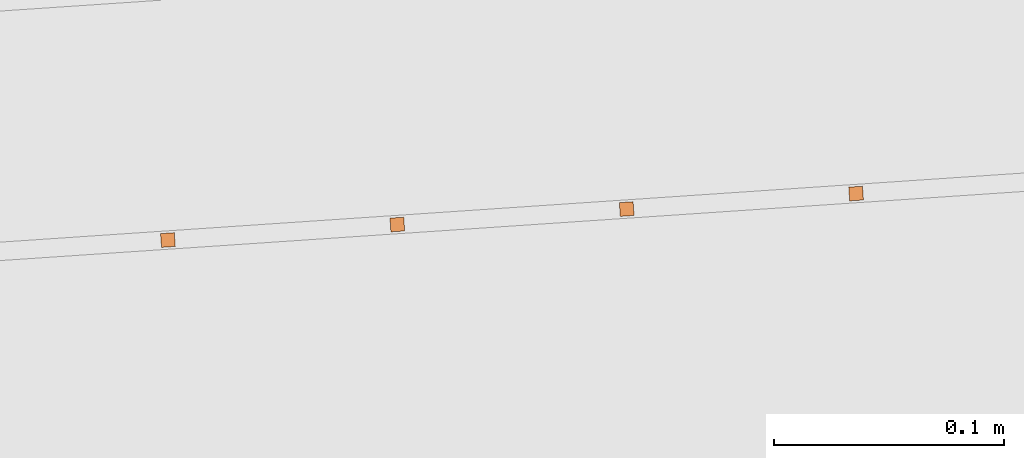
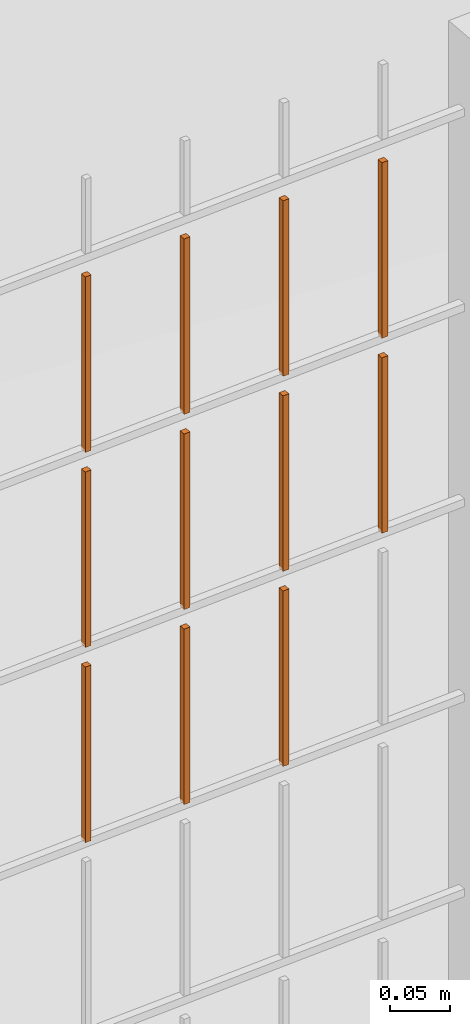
# One storey, part 360 of 1809: 11 proxies, 1 element without a shape of its own.
"""IFC2X3 building model written with IfcOpenShell, lengths in millimetres."""

from ifc_helpers import new_model, entity, si_unit, converted_unit, derived_unit, money_unit, direction, frame, origin_with_axes, place, context, subcontext, project, spatial, faceted_brep, source, transform, mapped, material, type_object, element, aggregate, save


model = new_model("IFC2X3")

# Units and contexts
model_context = context("Model", 3, precision=0.01, world=origin_with_axes(), true_north=direction((0.0, 1.0)))
body_context = subcontext(model_context, "Body", "Model", "MODEL_VIEW")
ifc_project = project(units=[si_unit("LENGTHUNIT", "METRE", prefix="MILLI"), si_unit("AREAUNIT", "SQUARE_METRE"), si_unit("VOLUMEUNIT", "CUBIC_METRE"), converted_unit("PLANEANGLEUNIT", "DEGREE", entity("IfcPlaneAngleMeasure", 0.0174532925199), si_unit("PLANEANGLEUNIT", "RADIAN"), dimensions=[0, 0, 0, 0, 0, 0, 0]), si_unit("SOLIDANGLEUNIT", "STERADIAN"), money_unit("EUR"), converted_unit("TIMEUNIT", "Year", entity("IfcTimeMeasure", 31556926.0), si_unit("TIMEUNIT", "SECOND"), dimensions=[0, 0, 1, 0, 0, 0, 0]), si_unit("MASSUNIT", "GRAM", prefix="KILO"), si_unit("THERMODYNAMICTEMPERATUREUNIT", "DEGREE_CELSIUS"), si_unit("LUMINOUSINTENSITYUNIT", "LUMEN"), si_unit("ENERGYUNIT", "JOULE", prefix="MEGA"), derived_unit("THERMALCONDUCTANCEUNIT", [(si_unit("POWERUNIT", "WATT"), 1), (si_unit("LENGTHUNIT", "METRE"), -1), (si_unit("THERMODYNAMICTEMPERATUREUNIT", "KELVIN"), -1)]), derived_unit("SPECIFICHEATCAPACITYUNIT", [(si_unit("ENERGYUNIT", "JOULE"), 1), (si_unit("MASSUNIT", "GRAM", prefix="KILO"), -1), (si_unit("THERMODYNAMICTEMPERATUREUNIT", "KELVIN"), -1)]), derived_unit("MASSDENSITYUNIT", [(si_unit("MASSUNIT", "GRAM", prefix="KILO"), 1), (si_unit("VOLUMEUNIT", "CUBIC_METRE"), -1)])], contexts=[model_context])

# Site, building, storey
site_placement = place(None, origin_with_axes())
site = spatial("IfcSite", under=ifc_project, at=site_placement, Name="Politse- ja Piirivalveameti ning Päästeameti ühishoone", CompositionType="ELEMENT")
building_placement = place(site_placement, origin_with_axes())
building = spatial("IfcBuilding", under=site, at=building_placement, Name="Politse- ja Piirivalveameti ning Päästeameti ühishoone", CompositionType="ELEMENT")
storey_placement = place(building_placement, origin_with_axes())
storey = spatial("IfcBuildingStorey", under=building, at=storey_placement, Name="Esimene korrus", CompositionType="ELEMENT", Elevation=0.0)

# Proxies
building_element_proxy_type_1 = type_object("IfcBuildingElementProxyType", Name="Railing Type", PredefinedType="NOTDEFINED")
proxy_1_placement = place(storey_placement, frame((89252.001212, -29183.4766571, 203.661247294), z_axis=(0.0, 0.0, 1.0), x_axis=(1.0, 0.0, 0.0)))
proxy_1 = element("IfcBuildingElementProxy", 1, at=proxy_1_placement, inside=storey, type_object=building_element_proxy_type_1, Name="PIIRDEAED")
ifc_material = material(Name="ET-03_Raud")
building_element_proxy_type_2 = type_object("IfcBuildingElementProxyType", Name="IfcBuildingElementProxy", PredefinedType="NOTDEFINED")
shared_shape_1 = source(origin_with_axes(), body_context, "Body", "Brep", [
    faceted_brep([(3.0, 3.0, -0.000752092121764), (-3.0, 3.0, -0.000752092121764), (-3.0, 3.0, 179.99926046), (3.0, 3.0, 179.99926046), (3.0, -3.0, 0.000752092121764), (-3.0, -3.0, 0.000752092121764), (-3.0, -3.0, 180.000764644), (3.0, -3.0, 180.000764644)], [[[0, 1, 2, 3]], [[0, 4, 5, 1]], [[1, 5, 6, 2]], [[3, 2, 6, 7]], [[4, 0, 3, 7]], [[5, 4, 7, 6]]]),
])
proxy_2_placement = place(proxy_1_placement, frame((-24870.017898, -18977.6506146, 1820.9853303), z_axis=(0.0, 0.0, 1.0), x_axis=(1.0, 0.0, 0.0)))
proxy_2 = element("IfcBuildingElementProxy", 2, at=proxy_2_placement, type_object=building_element_proxy_type_2, material=ifc_material, Name="BALUSTER - 001", context=body_context, shape_type="MappedRepresentation", body=[
    mapped(shared_shape_1, transform((0.0, 0.0, 0.0), x_axis=(-0.0673926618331, 0.997726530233, 0.0), y_axis=(-0.997726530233, -0.0673926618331, 0.0), z_axis=(0.0, 0.0, 1.0))),
])
shared_shape_2 = source(origin_with_axes(), body_context, "Body", "Brep", [
    faceted_brep([(3.0, 3.0, -0.000752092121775), (-3.0, 3.0, -0.000752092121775), (-3.0, 3.0, 179.99926046), (3.0, 3.0, 179.99926046), (3.0, -3.0, 0.000752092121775), (-3.0, -3.0, 0.000752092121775), (-3.0, -3.0, 180.000764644), (3.0, -3.0, 180.000764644)], [[[0, 1, 2, 3]], [[0, 4, 5, 1]], [[1, 5, 6, 2]], [[3, 2, 6, 7]], [[4, 0, 3, 7]], [[5, 4, 7, 6]]]),
])
proxy_3_placement = place(proxy_1_placement, frame((-24969.790551, -18984.3898807, 1820.96026056), z_axis=(0.0, 0.0, 1.0), x_axis=(1.0, 0.0, 0.0)))
proxy_3 = element("IfcBuildingElementProxy", 3, at=proxy_3_placement, type_object=building_element_proxy_type_2, material=ifc_material, Name="BALUSTER - 001", context=body_context, shape_type="MappedRepresentation", body=[
    mapped(shared_shape_2, transform((0.0, 0.0, 0.0), x_axis=(-0.0673926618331, 0.997726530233, 0.0), y_axis=(-0.997726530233, -0.0673926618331, 0.0), z_axis=(0.0, 0.0, 1.0))),
])
shared_shape_3 = source(origin_with_axes(), body_context, "Body", "Brep", [
    faceted_brep([(3.0, 3.0, -0.000752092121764), (-3.0, 3.0, -0.000752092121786), (-3.0, 3.0, 179.99926046), (3.0, 3.0, 179.99926046), (3.0, -3.0, 0.000752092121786), (-3.0, -3.0, 0.000752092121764), (-3.0, -3.0, 180.000764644), (3.0, -3.0, 180.000764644)], [[[0, 1, 2, 3]], [[0, 4, 5, 1]], [[1, 5, 6, 2]], [[3, 2, 6, 7]], [[4, 0, 3, 7]], [[5, 4, 7, 6]]]),
])
proxy_4_placement = place(proxy_1_placement, frame((-25169.3358571, -18997.8684131, 1820.91012108), z_axis=(0.0, 0.0, 1.0), x_axis=(1.0, 0.0, 0.0)))
proxy_4 = element("IfcBuildingElementProxy", 4, at=proxy_4_placement, type_object=building_element_proxy_type_2, material=ifc_material, Name="BALUSTER - 001", context=body_context, shape_type="MappedRepresentation", body=[
    mapped(shared_shape_3, transform((0.0, 0.0, 0.0), x_axis=(-0.0673926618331, 0.997726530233, 0.0), y_axis=(-0.997726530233, -0.0673926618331, 0.0), z_axis=(0.0, 0.0, 1.0))),
])
shared_shape_4 = source(origin_with_axes(), body_context, "Body", "Brep", [
    faceted_brep([(3.0, 3.0, -0.000752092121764), (-3.0, 3.0, -0.000752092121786), (-3.0, 3.0, 179.99926046), (3.0, 3.0, 179.99926046), (3.0, -3.0, 0.000752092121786), (-3.0, -3.0, 0.000752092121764), (-3.0, -3.0, 180.000764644), (3.0, -3.0, 180.000764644)], [[[0, 1, 2, 3]], [[0, 4, 5, 1]], [[1, 5, 6, 2]], [[3, 2, 6, 7]], [[4, 0, 3, 7]], [[5, 4, 7, 6]]]),
])
proxy_5_placement = place(proxy_1_placement, frame((-25169.3358571, -18997.8684131, 1620.91012108), z_axis=(0.0, 0.0, 1.0), x_axis=(1.0, 0.0, 0.0)))
proxy_5 = element("IfcBuildingElementProxy", 5, at=proxy_5_placement, type_object=building_element_proxy_type_2, material=ifc_material, Name="BALUSTER - 001", context=body_context, shape_type="MappedRepresentation", body=[
    mapped(shared_shape_4, transform((0.0, 0.0, 0.0), x_axis=(-0.0673926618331, 0.997726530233, 0.0), y_axis=(-0.997726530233, -0.0673926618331, 0.0), z_axis=(0.0, 0.0, 1.0))),
])
shared_shape_5 = source(origin_with_axes(), body_context, "Body", "Brep", [
    faceted_brep([(3.0, 3.0, -0.000752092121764), (-3.0, 3.0, -0.000752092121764), (-3.0, 3.0, 179.99926046), (3.0, 3.0, 179.99926046), (3.0, -3.0, 0.000752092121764), (-3.0, -3.0, 0.000752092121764), (-3.0, -3.0, 180.000764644), (3.0, -3.0, 180.000764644)], [[[0, 1, 2, 3]], [[0, 4, 5, 1]], [[1, 5, 6, 2]], [[3, 2, 6, 7]], [[4, 0, 3, 7]], [[5, 4, 7, 6]]]),
])
proxy_6_placement = place(proxy_1_placement, frame((-25069.563204, -18991.1291469, 1820.93519082), z_axis=(0.0, 0.0, 1.0), x_axis=(1.0, 0.0, 0.0)))
proxy_6 = element("IfcBuildingElementProxy", 6, at=proxy_6_placement, type_object=building_element_proxy_type_2, material=ifc_material, Name="BALUSTER - 001", context=body_context, shape_type="MappedRepresentation", body=[
    mapped(shared_shape_5, transform((0.0, 0.0, 0.0), x_axis=(-0.0673926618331, 0.997726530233, 0.0), y_axis=(-0.997726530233, -0.0673926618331, 0.0), z_axis=(0.0, 0.0, 1.0))),
])
shared_shape_6 = source(origin_with_axes(), body_context, "Body", "Brep", [
    faceted_brep([(3.0, 3.0, -0.000752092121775), (-3.0, 3.0, -0.000752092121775), (-3.0, 3.0, 179.99926046), (3.0, 3.0, 179.99926046), (3.0, -3.0, 0.000752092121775), (-3.0, -3.0, 0.000752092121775), (-3.0, -3.0, 180.000764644), (3.0, -3.0, 180.000764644)], [[[0, 1, 2, 3]], [[0, 4, 5, 1]], [[1, 5, 6, 2]], [[3, 2, 6, 7]], [[4, 0, 3, 7]], [[5, 4, 7, 6]]]),
])
proxy_7_placement = place(proxy_1_placement, frame((-24969.790551, -18984.3898807, 1420.96026056), z_axis=(0.0, 0.0, 1.0), x_axis=(1.0, 0.0, 0.0)))
proxy_7 = element("IfcBuildingElementProxy", 7, at=proxy_7_placement, type_object=building_element_proxy_type_2, material=ifc_material, Name="BALUSTER - 001", context=body_context, shape_type="MappedRepresentation", body=[
    mapped(shared_shape_6, transform((0.0, 0.0, 0.0), x_axis=(-0.0673926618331, 0.997726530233, 0.0), y_axis=(-0.997726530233, -0.0673926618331, 0.0), z_axis=(0.0, 0.0, 1.0))),
])
proxy_8_placement = place(proxy_1_placement, frame((-24969.790551, -18984.3898807, 1620.96026056), z_axis=(0.0, 0.0, 1.0), x_axis=(1.0, 0.0, 0.0)))
proxy_8 = element("IfcBuildingElementProxy", 8, at=proxy_8_placement, type_object=building_element_proxy_type_2, material=ifc_material, Name="BALUSTER - 001", context=body_context, shape_type="MappedRepresentation", body=[
    mapped(shared_shape_6, transform((0.0, 0.0, 0.0), x_axis=(-0.0673926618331, 0.997726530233, 0.0), y_axis=(-0.997726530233, -0.0673926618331, 0.0), z_axis=(0.0, 0.0, 1.0))),
])
shared_shape_7 = source(origin_with_axes(), body_context, "Body", "Brep", [
    faceted_brep([(3.0, 3.0, -0.000752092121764), (-3.0, 3.0, -0.000752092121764), (-3.0, 3.0, 179.99926046), (3.0, 3.0, 179.99926046), (3.0, -3.0, 0.000752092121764), (-3.0, -3.0, 0.000752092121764), (-3.0, -3.0, 180.000764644), (3.0, -3.0, 180.000764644)], [[[0, 1, 2, 3]], [[0, 4, 5, 1]], [[1, 5, 6, 2]], [[3, 2, 6, 7]], [[4, 0, 3, 7]], [[5, 4, 7, 6]]]),
])
proxy_9_placement = place(proxy_1_placement, frame((-25069.563204, -18991.1291469, 1420.93519082), z_axis=(0.0, 0.0, 1.0), x_axis=(1.0, 0.0, 0.0)))
proxy_9 = element("IfcBuildingElementProxy", 9, at=proxy_9_placement, type_object=building_element_proxy_type_2, material=ifc_material, Name="BALUSTER - 001", context=body_context, shape_type="MappedRepresentation", body=[
    mapped(shared_shape_7, transform((0.0, 0.0, 0.0), x_axis=(-0.0673926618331, 0.997726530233, 0.0), y_axis=(-0.997726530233, -0.0673926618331, 0.0), z_axis=(0.0, 0.0, 1.0))),
])
proxy_10_placement = place(proxy_1_placement, frame((-25069.563204, -18991.1291469, 1620.93519082), z_axis=(0.0, 0.0, 1.0), x_axis=(1.0, 0.0, 0.0)))
proxy_10 = element("IfcBuildingElementProxy", 10, at=proxy_10_placement, type_object=building_element_proxy_type_2, material=ifc_material, Name="BALUSTER - 001", context=body_context, shape_type="MappedRepresentation", body=[
    mapped(shared_shape_7, transform((0.0, 0.0, 0.0), x_axis=(-0.0673926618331, 0.997726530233, 0.0), y_axis=(-0.997726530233, -0.0673926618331, 0.0), z_axis=(0.0, 0.0, 1.0))),
])
shared_shape_8 = source(origin_with_axes(), body_context, "Body", "Brep", [
    faceted_brep([(3.0, 3.0, -0.000752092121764), (-3.0, 3.0, -0.000752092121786), (-3.0, 3.0, 179.99926046), (3.0, 3.0, 179.99926046), (3.0, -3.0, 0.000752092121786), (-3.0, -3.0, 0.000752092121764), (-3.0, -3.0, 180.000764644), (3.0, -3.0, 180.000764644)], [[[0, 1, 2, 3]], [[0, 4, 5, 1]], [[1, 5, 6, 2]], [[3, 2, 6, 7]], [[4, 0, 3, 7]], [[5, 4, 7, 6]]]),
])
proxy_11_placement = place(proxy_1_placement, frame((-25169.3358571, -18997.8684131, 1420.91012108), z_axis=(0.0, 0.0, 1.0), x_axis=(1.0, 0.0, 0.0)))
proxy_11 = element("IfcBuildingElementProxy", 11, at=proxy_11_placement, type_object=building_element_proxy_type_2, material=ifc_material, Name="BALUSTER - 001", context=body_context, shape_type="MappedRepresentation", body=[
    mapped(shared_shape_8, transform((0.0, 0.0, 0.0), x_axis=(-0.0673926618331, 0.997726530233, 0.0), y_axis=(-0.997726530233, -0.0673926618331, 0.0), z_axis=(0.0, 0.0, 1.0))),
])
shared_shape_9 = source(origin_with_axes(), body_context, "Body", "Brep", [
    faceted_brep([(3.0, 3.0, -0.000752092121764), (-3.0, 3.0, -0.000752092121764), (-3.0, 3.0, 179.99926046), (3.0, 3.0, 179.99926046), (3.0, -3.0, 0.000752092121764), (-3.0, -3.0, 0.000752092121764), (-3.0, -3.0, 180.000764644), (3.0, -3.0, 180.000764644)], [[[0, 1, 2, 3]], [[0, 4, 5, 1]], [[1, 5, 6, 2]], [[3, 2, 6, 7]], [[4, 0, 3, 7]], [[5, 4, 7, 6]]]),
])
proxy_12_placement = place(proxy_1_placement, frame((-24870.017898, -18977.6506146, 1620.9853303), z_axis=(0.0, 0.0, 1.0), x_axis=(1.0, 0.0, 0.0)))
proxy_12 = element("IfcBuildingElementProxy", 12, at=proxy_12_placement, type_object=building_element_proxy_type_2, material=ifc_material, Name="BALUSTER - 001", context=body_context, shape_type="MappedRepresentation", body=[
    mapped(shared_shape_9, transform((0.0, 0.0, 0.0), x_axis=(-0.0673926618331, 0.997726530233, 0.0), y_axis=(-0.997726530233, -0.0673926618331, 0.0), z_axis=(0.0, 0.0, 1.0))),
])
aggregate(proxy_1, [proxy_7, proxy_9, proxy_11, proxy_12, proxy_8, proxy_10, proxy_5, proxy_2, proxy_3, proxy_6, proxy_4])

save(model, "model.ifc")
